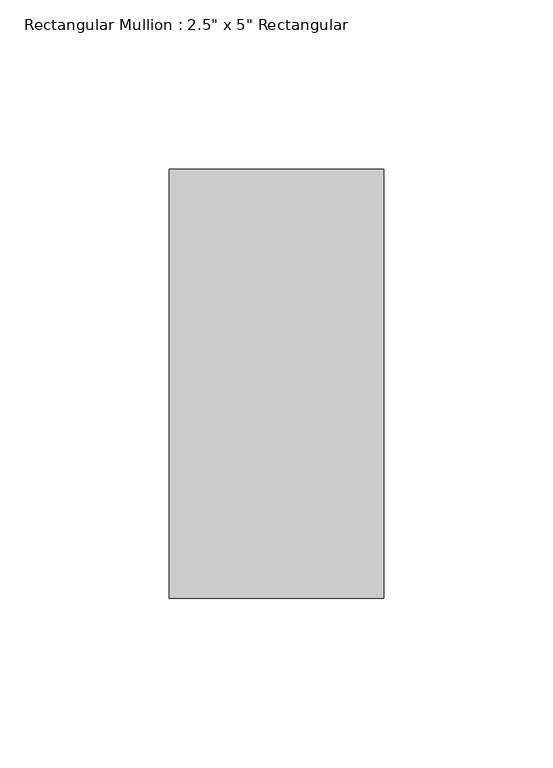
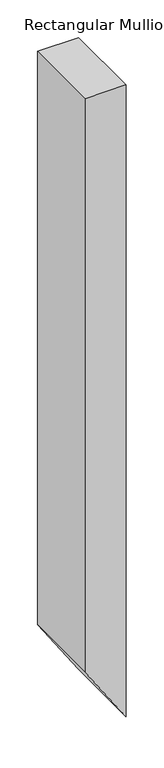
"""IFC4 building model written with IfcOpenShell, lengths in millimetres: member geometry."""

from ifc_helpers import new_model, si_unit, frame, origin, place, context, project, spatial, polyline, outline, extrude, source, transform, mapped, element, save


def member_c4c0bdfb(model_context):
    return source(origin(), model_context, "Body", "SweptSolid", [
        extrude(outline(polyline([(0.0, 0.0), (0.0, -63.5), (-933.0893008, -63.5), (-1027.7332961, 0.0), (0.0, 0.0)])), frame((0.0, -63.5, 0.0), z_axis=(0.0, 1.0, 0.0), x_axis=(0.0, 0.0, 1.0)), (0.0, 0.0, 1.0), 127.0),
    ])


if __name__ == "__main__":
    model = new_model("IFC4")
    model_context = context("Model", 3, world=origin())
    ifc_project = project(units=[si_unit("LENGTHUNIT", "METRE", prefix="MILLI")], contexts=[model_context])
    site = spatial("IfcSite", under=ifc_project)
    building = spatial("IfcBuilding", under=site)
    placement = place(None, origin())
    member_shape = member_c4c0bdfb(model_context)
    element("IfcMember", 1, ObjectType="Rectangular Mullion : 2.5\" x 5\" Rectangular", at=placement, inside=building, context=model_context, shape_type="MappedRepresentation", body=[
        mapped(member_shape, transform((0.0, 0.0, 0.0), x_axis=(1.0, 0.0, 0.0), y_axis=(0.0, 1.0, 0.0), z_axis=(0.0, 0.0, 1.0))),
    ])
    save(model, "model.ifc")
